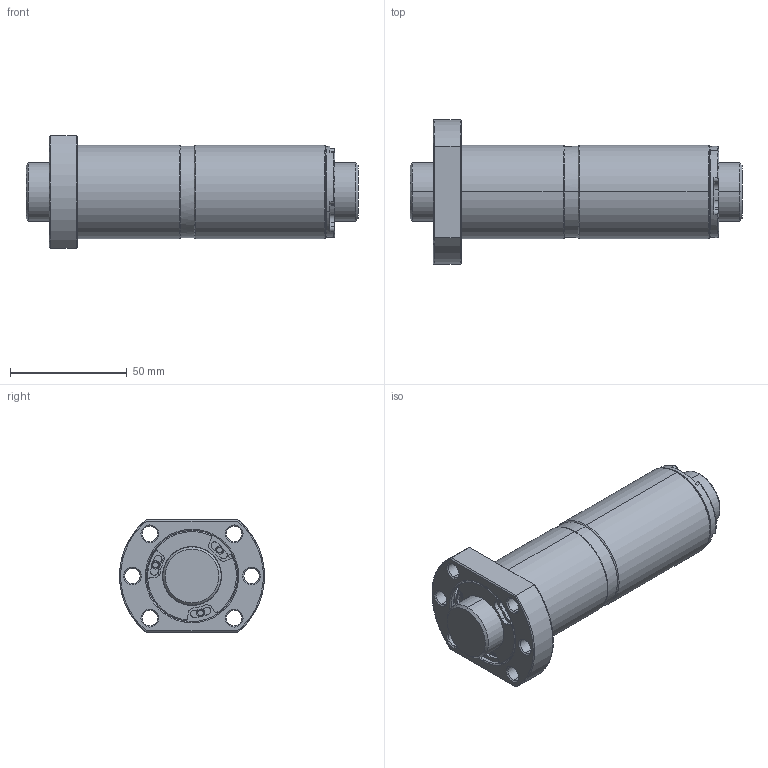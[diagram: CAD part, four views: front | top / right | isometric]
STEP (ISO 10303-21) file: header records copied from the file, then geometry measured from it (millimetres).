
FILE_DESCRIPTION (( 'STEP AP203' ), '1' );
FILE_NAME ('DFSR02510C1D-C.STEP', '2020-06-17T02:25:40', ( '' ), ( '' ), 'SwSTEP 2.0', 'SolidWorks 2013', '' );
FILE_SCHEMA (( 'CONFIG_CONTROL_DESIGN' ));
Length unit declared in the file: millimetre
Products named in the file (1): DFSR02510C1D-C
Bounding box: 142 x 61.87 x 48 mm (x, y, z)
Volume: 166741.7 mm3; surface area: 45085.6 mm2
Topology: 2 solids, 2 shells, 273 faces, 670 edges, 422 vertices
Faces by surface type: cylinder 141, plane 77, cone 33, bspline 22
Entity records: 11085 total; most frequent: CARTESIAN_POINT 4378, DIRECTION 1512, ORIENTED_EDGE 1340, EDGE_CURVE 670, AXIS2_PLACEMENT_3D 644, VERTEX_POINT 422, CIRCLE 392, EDGE_LOOP 312
